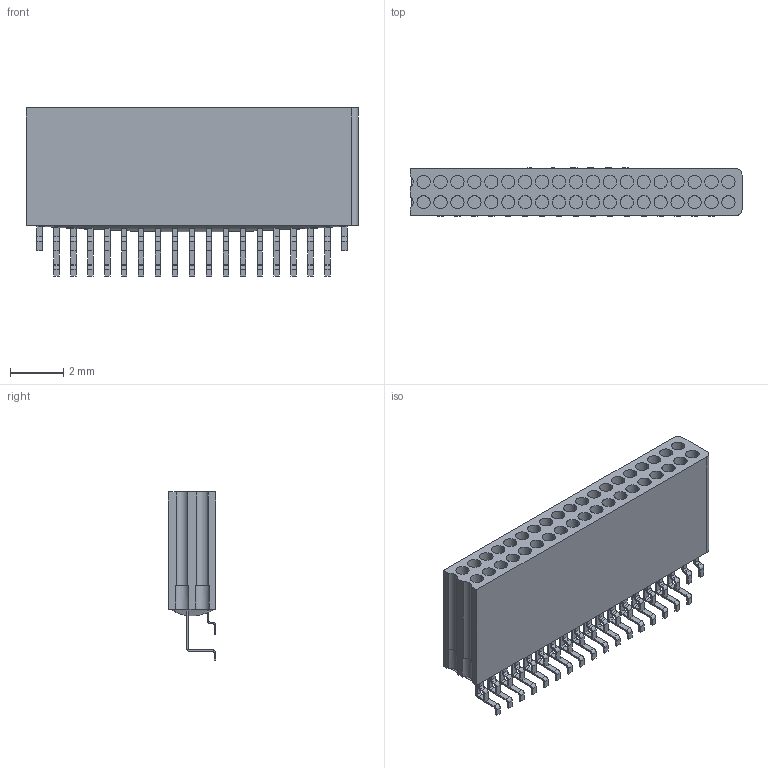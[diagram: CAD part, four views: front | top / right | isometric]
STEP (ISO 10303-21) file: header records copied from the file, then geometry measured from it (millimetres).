
FILE_DESCRIPTION (( 'STEP AP214' ), '1' );
FILE_NAME ('A79048-001 REV C.STEP', '2015-11-06T13:25:57', ( '' ), ( '' ), 'SwSTEP 2.0', 'SolidWorks 2015', '' );
FILE_SCHEMA (( 'AUTOMOTIVE_DESIGN' ));
Length unit declared in the file: inch
Products named in the file (1): A79048-001
Bounding box: 12.45 x 1.79 x 6.3 mm (x, y, z)
Volume: 65.7 mm3; surface area: 479.1 mm2
Topology: 1 solids, 1 shells, 881 faces, 2281 edges, 1515 vertices
Faces by surface type: plane 521, cylinder 306, bspline 54
Entity records: 29618 total; most frequent: CARTESIAN_POINT 7767, ORIENTED_EDGE 4554, DIRECTION 4469, EDGE_CURVE 2277, VERTEX_POINT 1515, AXIS2_PLACEMENT_3D 1506, VECTOR 1457, LINE 1457
